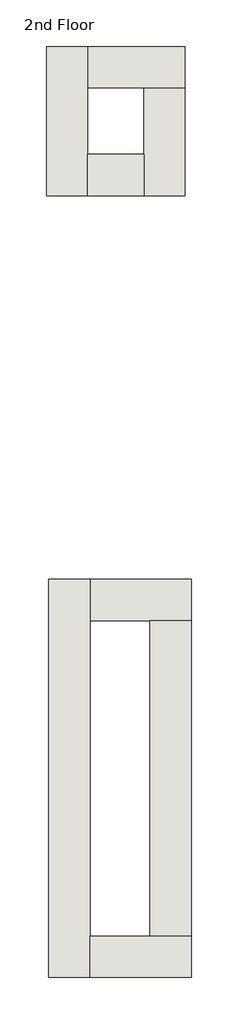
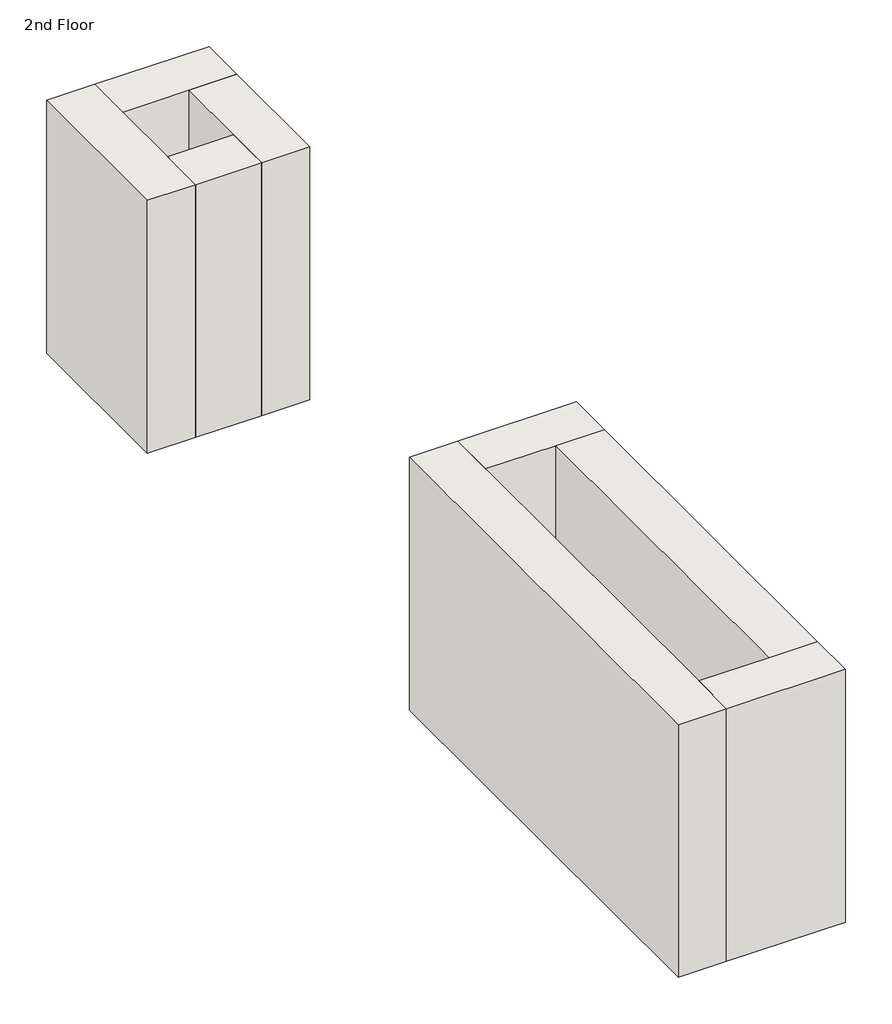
# One storey: 8 walls.
"""IFC4 building model written with IfcOpenShell, lengths in millimetres."""

from ifc_helpers import new_model, si_unit, frame, origin, place, context, project, spatial, polyline, outline, extrude, faceted_brep, element, save

model = new_model("IFC4")

# Units and contexts
model_context = context("Model", 3, world=origin())
ifc_project = project(units=[si_unit("LENGTHUNIT", "METRE", prefix="MILLI")], contexts=[model_context])

# Site, building, storey
site = spatial("IfcSite", under=ifc_project)
building = spatial("IfcBuilding", under=site)
storey = spatial("IfcBuildingStorey", under=building, Name="2nd Floor", Elevation=2997.2)

# Walls
placement = place(None, origin())
element("IfcWall", 1, ObjectType="Planitar - Generic 6 1/2\"", at=placement, inside=storey, context=model_context, shape_type="Brep", body=[
    faceted_brep([(-1236.2498372, 4813.3, 2997.2), (-1236.2498372, 4978.4, 2997.2), (-1236.2498372, 5245.1, 2997.2), (-1236.2498372, 5410.2, 2997.2), (-1236.2498372, 5410.2, 3911.6), (-1236.2498372, 5245.1, 3911.6), (-1236.2498372, 4978.4, 3911.6), (-1236.2498372, 4813.3, 3911.6), (-1401.3498372, 4813.3, 2997.2), (-1401.3498372, 4813.3, 3911.6), (-1401.3498372, 5410.2, 3911.6), (-1401.3498372, 5410.2, 2997.2)], [[[0, 1, 2, 3, 4, 5, 6, 7]], [[8, 9, 10, 11]], [[3, 2, 1, 0, 8, 11]], [[7, 6, 5, 4, 10, 9]], [[4, 3, 11, 10]], [[0, 7, 9, 8]]]),
])
element("IfcWall", 2, ObjectType="Planitar - Generic 6 1/2\"", at=placement, inside=storey, context=model_context, shape_type="Brep", body=[
    faceted_brep([(-1236.2498372, 5245.1, 2997.2), (-1010.5255931, 5245.1, 2997.2), (-845.4255931, 5245.1, 2997.2), (-845.4255931, 5245.1, 3911.6), (-1010.5255931, 5245.1, 3911.6), (-1236.2498372, 5245.1, 3911.6), (-1236.2498372, 5410.2, 2997.2), (-1236.2498372, 5410.2, 3911.6), (-845.4255931, 5410.2, 3911.6), (-845.4255931, 5410.2, 2997.2)], [[[0, 1, 2, 3, 4, 5]], [[6, 7, 8, 9]], [[2, 1, 0, 6, 9]], [[5, 4, 3, 8, 7]], [[0, 5, 7, 6]], [[3, 2, 9, 8]]]),
])
element("IfcWall", 3, ObjectType="Planitar - Generic 6 1/2\"", at=placement, inside=storey, context=model_context, shape_type="Brep", body=[
    faceted_brep([(-1010.5255931, 5245.1, 2997.2), (-1010.5255931, 4978.4, 2997.2), (-1010.5255931, 4813.3, 2997.2), (-1010.5255931, 4813.3, 3911.6), (-1010.5255931, 4978.4, 3911.6), (-1010.5255931, 5245.1, 3911.6), (-845.4255931, 5245.1, 2997.2), (-845.4255931, 5245.1, 3911.6), (-845.4255931, 4813.3, 3911.6), (-845.4255931, 4813.3, 2997.2)], [[[0, 1, 2, 3, 4, 5]], [[6, 7, 8, 9]], [[2, 1, 0, 6, 9]], [[5, 4, 3, 8, 7]], [[0, 5, 7, 6]], [[3, 2, 9, 8]]]),
])
element("IfcWall", 4, ObjectType="Planitar - Generic 6 1/2\"", at=placement, inside=storey, context=model_context, shape_type="SweptSolid", body=[
    extrude(outline(polyline([(-1236.2498372, 4978.4), (-1010.5255931, 4978.4), (-1010.5255931, 4813.3), (-1236.2498372, 4813.3), (-1236.2498372, 4978.4)])), frame((0.0, 0.0, 2997.2), z_axis=(0.0, 0.0, 1.0), x_axis=(1.0, 0.0, 0.0)), (0.0, 0.0, 1.0), 914.4),
])
element("IfcWall", 5, ObjectType="Planitar - Generic 6 1/2\"", at=placement, inside=storey, context=model_context, shape_type="Brep", body=[
    faceted_brep([(-1226.4255931, 1683.0561456, 2997.2), (-1226.4255931, 1848.1561456, 2997.2), (-1226.4255931, 3111.8061456, 2997.2), (-1226.4255931, 3276.9061456, 2997.2), (-1226.4255931, 3276.9061456, 3911.6), (-1226.4255931, 3111.8061456, 3911.6), (-1226.4255931, 1848.1561456, 3911.6), (-1226.4255931, 1683.0561456, 3911.6), (-1391.5255931, 1683.0561456, 2997.2), (-1391.5255931, 1683.0561456, 3911.6), (-1391.5255931, 3276.9061456, 3911.6), (-1391.5255931, 3276.9061456, 2997.2)], [[[0, 1, 2, 3, 4, 5, 6, 7]], [[8, 9, 10, 11]], [[3, 2, 1, 0, 8, 11]], [[7, 6, 5, 4, 10, 9]], [[4, 3, 11, 10]], [[0, 7, 9, 8]]]),
])
element("IfcWall", 6, ObjectType="Planitar - Generic 6 1/2\"", at=placement, inside=storey, context=model_context, shape_type="Brep", body=[
    faceted_brep([(-1226.4255931, 3111.8061456, 2997.2), (-985.1255931, 3111.8061456, 2997.2), (-820.0255931, 3111.8061456, 2997.2), (-820.0255931, 3111.8061456, 3911.6), (-985.1255931, 3111.8061456, 3911.6), (-1226.4255931, 3111.8061456, 3911.6), (-1226.4255931, 3276.9061456, 2997.2), (-1226.4255931, 3276.9061456, 3911.6), (-820.0255931, 3276.9061456, 3911.6), (-820.0255931, 3276.9061456, 2997.2)], [[[0, 1, 2, 3, 4, 5]], [[6, 7, 8, 9]], [[2, 1, 0, 6, 9]], [[5, 4, 3, 8, 7]], [[0, 5, 7, 6]], [[3, 2, 9, 8]]]),
])
element("IfcWall", 7, ObjectType="Planitar - Generic 6 1/2\"", at=placement, inside=storey, context=model_context, shape_type="Brep", body=[
    faceted_brep([(-1226.4255931, 1683.0561456, 2997.2), (-820.0255931, 1683.0561456, 2997.2), (-820.0255931, 1683.0561456, 3911.6), (-1226.4255931, 1683.0561456, 3911.6), (-1226.4255931, 1848.1561456, 2997.2), (-1226.4255931, 1848.1561456, 3911.6), (-985.1255931, 1848.1561456, 3911.6), (-820.0255931, 1848.1561456, 3911.6), (-820.0255931, 1848.1561456, 2997.2), (-985.1255931, 1848.1561456, 2997.2)], [[[0, 1, 2, 3]], [[4, 5, 6, 7, 8, 9]], [[1, 0, 4, 9, 8]], [[3, 2, 7, 6, 5]], [[0, 3, 5, 4]], [[2, 1, 8, 7]]]),
])
element("IfcWall", 8, ObjectType="Planitar - Generic 6 1/2\"", at=placement, inside=storey, context=model_context, shape_type="SweptSolid", body=[
    extrude(outline(polyline([(-820.0255931, 3111.8061456), (-820.0255931, 1848.1561456), (-985.1255931, 1848.1561456), (-985.1255931, 3111.8061456), (-820.0255931, 3111.8061456)])), frame((0.0, 0.0, 2997.2), z_axis=(0.0, 0.0, 1.0), x_axis=(1.0, 0.0, 0.0)), (0.0, 0.0, 1.0), 914.4),
])

save(model, "model.ifc")
